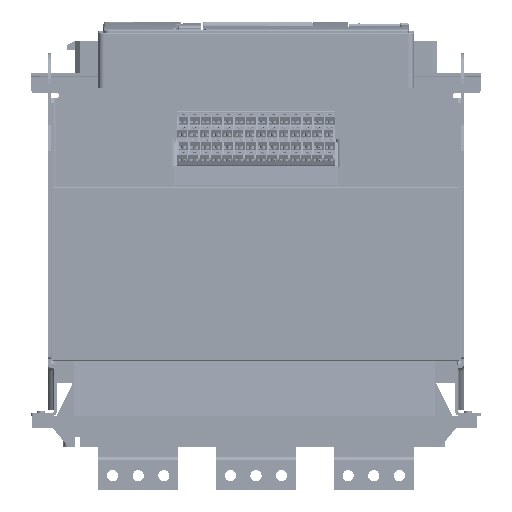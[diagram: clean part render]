
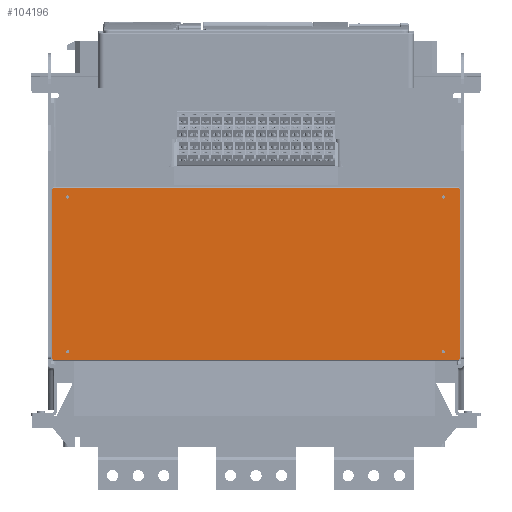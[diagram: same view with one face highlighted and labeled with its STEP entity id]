
A CAD part, front view. The second image highlights one B-rep face of the part: STEP entity #104196.
In plain terms, the highlighted planar face has unit normal (0, -1, 0) as drawn and (0, 0, -1) by its records, which use the part's own axes.
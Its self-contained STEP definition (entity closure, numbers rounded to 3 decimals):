
#5031=FACE_BOUND('',#15129,.T.);
#5032=FACE_BOUND('',#15130,.T.);
#5033=FACE_BOUND('',#15131,.T.);
#5034=FACE_BOUND('',#15132,.T.);
#9203=FACE_OUTER_BOUND('',#15128,.T.);
#15128=EDGE_LOOP('',(#87740,#87741,#87742,#87743,#87744,#87745,#87746,#87747,
#87748,#87749,#87750,#87751));
#15129=EDGE_LOOP('',(#87752));
#15130=EDGE_LOOP('',(#87753));
#15131=EDGE_LOOP('',(#87754));
#15132=EDGE_LOOP('',(#87755));
#19344=CIRCLE('',#112606,1.6);
#19345=CIRCLE('',#112607,1.6);
#19346=CIRCLE('',#112608,1.6);
#19347=CIRCLE('',#112609,1.6);
#27498=LINE('',#219208,#38264);
#27499=LINE('',#219210,#38265);
#27500=LINE('',#219212,#38266);
#27501=LINE('',#219214,#38267);
#27502=LINE('',#219216,#38268);
#27503=LINE('',#219218,#38269);
#27504=LINE('',#219220,#38270);
#27505=LINE('',#219222,#38271);
#27506=LINE('',#219224,#38272);
#27507=LINE('',#219226,#38273);
#27508=LINE('',#219228,#38274);
#27509=LINE('',#219229,#38275);
#38264=VECTOR('',#135039,166.);
#38265=VECTOR('',#135040,1.);
#38266=VECTOR('',#135041,1.);
#38267=VECTOR('',#135042,397.);
#38268=VECTOR('',#135043,1.);
#38269=VECTOR('',#135044,1.);
#38270=VECTOR('',#135045,166.);
#38271=VECTOR('',#135046,1.);
#38272=VECTOR('',#135047,1.);
#38273=VECTOR('',#135048,397.);
#38274=VECTOR('',#135049,1.);
#38275=VECTOR('',#135050,1.);
#48534=VERTEX_POINT('',#219206);
#48535=VERTEX_POINT('',#219207);
#48536=VERTEX_POINT('',#219209);
#48537=VERTEX_POINT('',#219211);
#48538=VERTEX_POINT('',#219213);
#48539=VERTEX_POINT('',#219215);
#48540=VERTEX_POINT('',#219217);
#48541=VERTEX_POINT('',#219219);
#48542=VERTEX_POINT('',#219221);
#48543=VERTEX_POINT('',#219223);
#48544=VERTEX_POINT('',#219225);
#48545=VERTEX_POINT('',#219227);
#48546=VERTEX_POINT('',#219230);
#48547=VERTEX_POINT('',#219232);
#48548=VERTEX_POINT('',#219234);
#48549=VERTEX_POINT('',#219236);
#62080=EDGE_CURVE('',#48534,#48535,#27498,.T.);
#62081=EDGE_CURVE('',#48535,#48536,#27499,.T.);
#62082=EDGE_CURVE('',#48537,#48536,#27500,.T.);
#62083=EDGE_CURVE('',#48537,#48538,#27501,.T.);
#62084=EDGE_CURVE('',#48538,#48539,#27502,.T.);
#62085=EDGE_CURVE('',#48540,#48539,#27503,.T.);
#62086=EDGE_CURVE('',#48540,#48541,#27504,.T.);
#62087=EDGE_CURVE('',#48541,#48542,#27505,.T.);
#62088=EDGE_CURVE('',#48543,#48542,#27506,.T.);
#62089=EDGE_CURVE('',#48543,#48544,#27507,.T.);
#62090=EDGE_CURVE('',#48544,#48545,#27508,.T.);
#62091=EDGE_CURVE('',#48534,#48545,#27509,.T.);
#62092=EDGE_CURVE('',#48546,#48546,#19344,.T.);
#62093=EDGE_CURVE('',#48547,#48547,#19345,.T.);
#62094=EDGE_CURVE('',#48548,#48548,#19346,.T.);
#62095=EDGE_CURVE('',#48549,#48549,#19347,.T.);
#87740=ORIENTED_EDGE('',*,*,#62080,.T.);
#87741=ORIENTED_EDGE('',*,*,#62081,.T.);
#87742=ORIENTED_EDGE('',*,*,#62082,.F.);
#87743=ORIENTED_EDGE('',*,*,#62083,.T.);
#87744=ORIENTED_EDGE('',*,*,#62084,.T.);
#87745=ORIENTED_EDGE('',*,*,#62085,.F.);
#87746=ORIENTED_EDGE('',*,*,#62086,.T.);
#87747=ORIENTED_EDGE('',*,*,#62087,.T.);
#87748=ORIENTED_EDGE('',*,*,#62088,.F.);
#87749=ORIENTED_EDGE('',*,*,#62089,.T.);
#87750=ORIENTED_EDGE('',*,*,#62090,.T.);
#87751=ORIENTED_EDGE('',*,*,#62091,.F.);
#87752=ORIENTED_EDGE('',*,*,#62092,.F.);
#87753=ORIENTED_EDGE('',*,*,#62093,.F.);
#87754=ORIENTED_EDGE('',*,*,#62094,.F.);
#87755=ORIENTED_EDGE('',*,*,#62095,.F.);
#99062=PLANE('',#112605);
#104196=ADVANCED_FACE('',(#9203,#5031,#5032,#5033,#5034),#99062,.F.);
#112605=AXIS2_PLACEMENT_3D('',#219205,#135037,#135038);
#112606=AXIS2_PLACEMENT_3D('',#219231,#135051,#135052);
#112607=AXIS2_PLACEMENT_3D('',#219233,#135053,#135054);
#112608=AXIS2_PLACEMENT_3D('',#219235,#135055,#135056);
#112609=AXIS2_PLACEMENT_3D('',#219237,#135057,#135058);
#135037=DIRECTION('center_axis',(0.,0.,1.));
#135038=DIRECTION('ref_axis',(1.,0.,0.));
#135039=DIRECTION('',(0.,-1.,0.));
#135040=DIRECTION('',(-1.,0.,0.));
#135041=DIRECTION('',(0.,1.,0.));
#135042=DIRECTION('',(-1.,0.,0.));
#135043=DIRECTION('',(0.,1.,0.));
#135044=DIRECTION('',(1.,0.,0.));
#135045=DIRECTION('',(0.,1.,0.));
#135046=DIRECTION('',(1.,0.,0.));
#135047=DIRECTION('',(0.,-1.,0.));
#135048=DIRECTION('',(1.,0.,0.));
#135049=DIRECTION('',(0.,-1.,0.));
#135050=DIRECTION('',(-1.,0.,0.));
#135051=DIRECTION('center_axis',(0.,0.,-1.));
#135052=DIRECTION('ref_axis',(-1.,0.,0.));
#135053=DIRECTION('center_axis',(0.,0.,-1.));
#135054=DIRECTION('ref_axis',(-1.,0.,0.));
#135055=DIRECTION('center_axis',(0.,0.,-1.));
#135056=DIRECTION('ref_axis',(-1.,0.,0.));
#135057=DIRECTION('center_axis',(0.,0.,-1.));
#135058=DIRECTION('ref_axis',(-1.,0.,0.));
#219205=CARTESIAN_POINT('Origin',(0.,0.,0.));
#219206=CARTESIAN_POINT('',(199.5,83.,0.));
#219207=CARTESIAN_POINT('',(199.5,-83.,0.));
#219208=CARTESIAN_POINT('',(199.5,83.,0.));
#219209=CARTESIAN_POINT('',(198.5,-83.,0.));
#219210=CARTESIAN_POINT('',(199.5,-83.,0.));
#219211=CARTESIAN_POINT('',(198.5,-84.,0.));
#219212=CARTESIAN_POINT('',(198.5,-84.,0.));
#219213=CARTESIAN_POINT('',(-198.5,-84.,0.));
#219214=CARTESIAN_POINT('',(198.5,-84.,0.));
#219215=CARTESIAN_POINT('',(-198.5,-83.,0.));
#219216=CARTESIAN_POINT('',(-198.5,-84.,0.));
#219217=CARTESIAN_POINT('',(-199.5,-83.,0.));
#219218=CARTESIAN_POINT('',(-199.5,-83.,0.));
#219219=CARTESIAN_POINT('',(-199.5,83.,0.));
#219220=CARTESIAN_POINT('',(-199.5,-83.,0.));
#219221=CARTESIAN_POINT('',(-198.5,83.,0.));
#219222=CARTESIAN_POINT('',(-199.5,83.,0.));
#219223=CARTESIAN_POINT('',(-198.5,84.,0.));
#219224=CARTESIAN_POINT('',(-198.5,84.,0.));
#219225=CARTESIAN_POINT('',(198.5,84.,0.));
#219226=CARTESIAN_POINT('',(-198.5,84.,0.));
#219227=CARTESIAN_POINT('',(198.5,83.,0.));
#219228=CARTESIAN_POINT('',(198.5,84.,0.));
#219229=CARTESIAN_POINT('',(199.5,83.,0.));
#219230=CARTESIAN_POINT('',(184.6,76.,0.));
#219231=CARTESIAN_POINT('Origin',(183.,76.,0.));
#219232=CARTESIAN_POINT('',(-182.4,-75.,0.));
#219233=CARTESIAN_POINT('Origin',(-184.,-75.,0.));
#219234=CARTESIAN_POINT('',(184.6,-75.,0.));
#219235=CARTESIAN_POINT('Origin',(183.,-75.,0.));
#219236=CARTESIAN_POINT('',(-182.4,76.,0.));
#219237=CARTESIAN_POINT('Origin',(-184.,76.,0.));
